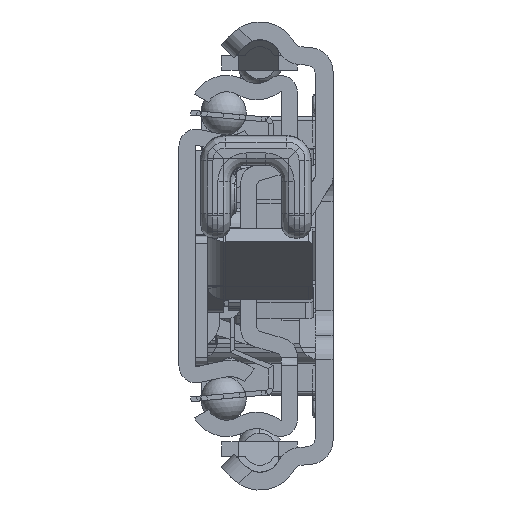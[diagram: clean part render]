
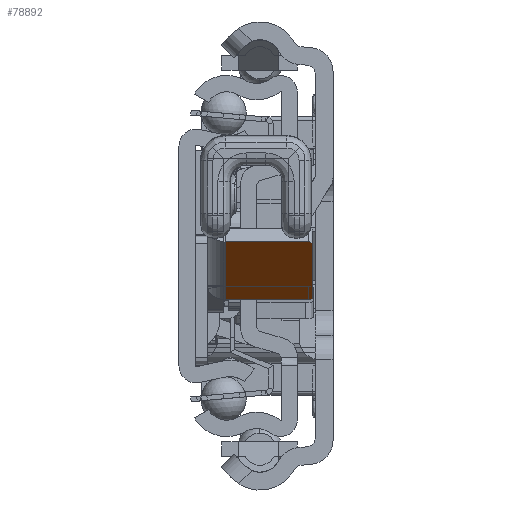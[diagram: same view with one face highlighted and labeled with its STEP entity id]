
A CAD part, left-side view. The second image highlights one B-rep face of the part: STEP entity #78892.
In plain terms, the highlighted planar face has unit normal (-0.595, 0, -0.804) as drawn and (-0.597, -0.802, 0) by its records, which use the part's own axes.
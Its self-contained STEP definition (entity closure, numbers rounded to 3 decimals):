
#78284=DIRECTION('',(0.802,-0.597,0.));
#78285=VECTOR('',#78284,12.);
#78286=CARTESIAN_POINT('',(31.957,-10.314,2.2));
#78287=LINE('',#78286,#78285);
#78312=CARTESIAN_POINT('',(41.184,-17.178,12.5));
#78313=DIRECTION('',(-0.597,-0.802,0.));
#78314=DIRECTION('',(0.802,-0.597,0.));
#78315=AXIS2_PLACEMENT_3D('',#78312,#78313,#78314);
#78317=DIRECTION('',(0.,0.,1.));
#78318=VECTOR('',#78317,10.3);
#78319=CARTESIAN_POINT('',(41.586,-17.476,2.2));
#78320=LINE('',#78319,#78318);
#78321=DIRECTION('',(0.,0.,-1.));
#78322=VECTOR('',#78321,10.3);
#78323=CARTESIAN_POINT('',(31.957,-10.314,12.5));
#78324=LINE('',#78323,#78322);
#78325=CARTESIAN_POINT('',(32.358,-10.613,12.5));
#78326=DIRECTION('',(-0.597,-0.802,0.));
#78327=DIRECTION('',(0.,0.,1.));
#78328=AXIS2_PLACEMENT_3D('',#78325,#78326,#78327);
#78330=DIRECTION('',(-0.802,0.597,0.));
#78331=VECTOR('',#78330,11.);
#78332=CARTESIAN_POINT('',(41.184,-17.178,13.));
#78333=LINE('',#78332,#78331);
#78546=CARTESIAN_POINT('',(31.957,-10.314,2.2));
#78547=CARTESIAN_POINT('',(41.586,-17.476,2.2));
#78548=VERTEX_POINT('',#78546);
#78549=VERTEX_POINT('',#78547);
#78578=CARTESIAN_POINT('',(41.586,-17.476,12.5));
#78579=CARTESIAN_POINT('',(41.184,-17.178,13.));
#78580=VERTEX_POINT('',#78578);
#78581=VERTEX_POINT('',#78579);
#78586=CARTESIAN_POINT('',(32.358,-10.613,13.));
#78587=CARTESIAN_POINT('',(31.957,-10.314,12.5));
#78588=VERTEX_POINT('',#78586);
#78589=VERTEX_POINT('',#78587);
#78874=CARTESIAN_POINT('',(34.726,-12.374,0.));
#78875=DIRECTION('',(-0.597,-0.802,0.));
#78876=DIRECTION('',(0.802,-0.597,0.));
#78877=AXIS2_PLACEMENT_3D('',#78874,#78875,#78876);
#78878=PLANE('',#78877);
#78880=ORIENTED_EDGE('',*,*,#78879,.F.);
#78882=ORIENTED_EDGE('',*,*,#78881,.F.);
#78883=ORIENTED_EDGE('',*,*,#78861,.F.);
#78885=ORIENTED_EDGE('',*,*,#78884,.F.);
#78887=ORIENTED_EDGE('',*,*,#78886,.F.);
#78889=ORIENTED_EDGE('',*,*,#78888,.F.);
#78890=EDGE_LOOP('',(#78880,#78882,#78883,#78885,#78887,#78889));
#78891=FACE_OUTER_BOUND('',#78890,.F.);
#78316=CIRCLE('',#78315,0.5);
#78329=CIRCLE('',#78328,0.5);
#78861=EDGE_CURVE('',#78548,#78549,#78287,.T.);
#78879=EDGE_CURVE('',#78580,#78581,#78316,.T.);
#78881=EDGE_CURVE('',#78549,#78580,#78320,.T.);
#78884=EDGE_CURVE('',#78589,#78548,#78324,.T.);
#78886=EDGE_CURVE('',#78588,#78589,#78329,.T.);
#78888=EDGE_CURVE('',#78581,#78588,#78333,.T.);
#78892=ADVANCED_FACE('',(#78891),#78878,.T.);
